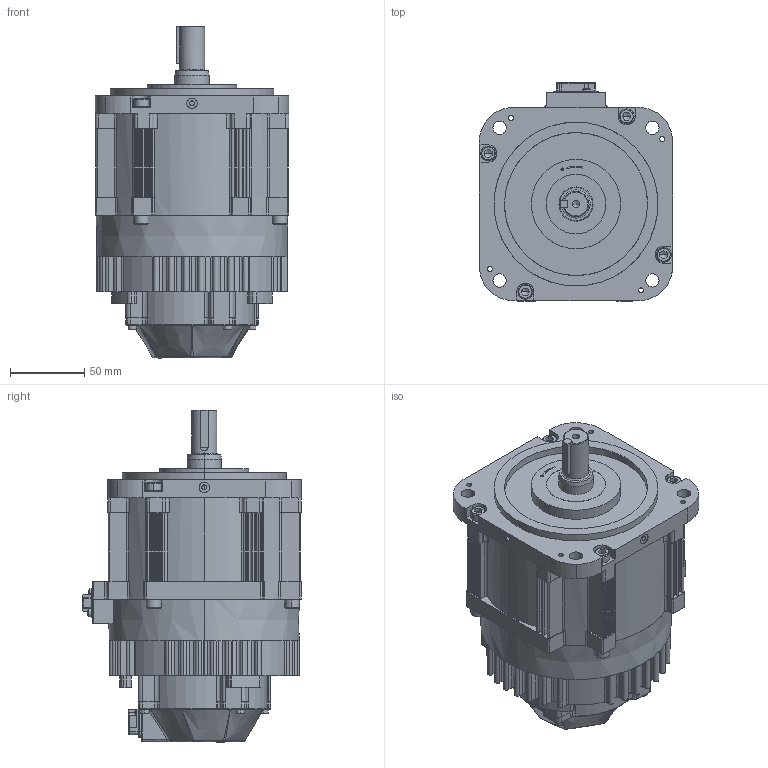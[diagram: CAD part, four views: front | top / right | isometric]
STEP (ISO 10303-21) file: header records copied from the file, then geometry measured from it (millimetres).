
FILE_DESCRIPTION (( 'STEP AP214' ), '1' );
FILE_NAME ('SGM7G-09APK-YR1.STEP', '2021-04-12T14:41:14', ( '' ), ( '' ), 'SwSTEP 2.0', 'SolidWorks 2019', '' );
FILE_SCHEMA (( 'AUTOMOTIVE_DESIGN' ));
Length unit declared in the file: millimetre
Products named in the file (1): SGM7G-09APK-YR1
Bounding box: 130 x 146.5 x 223 mm (x, y, z)
Volume: 2043482 mm3; surface area: 136357.7 mm2
Topology: 2 solids, 25 shells, 1993 faces, 5275 edges, 3365 vertices
Faces by surface type: plane 1082, cylinder 655, cone 144, bspline 112
Entity records: 82557 total; most frequent: CARTESIAN_POINT 26405, ORIENTED_EDGE 10460, DIRECTION 8331, EDGE_CURVE 5230, VERTEX_POINT 3365, LINE 3075, VECTOR 3075, AXIS2_PLACEMENT_3D 2628
